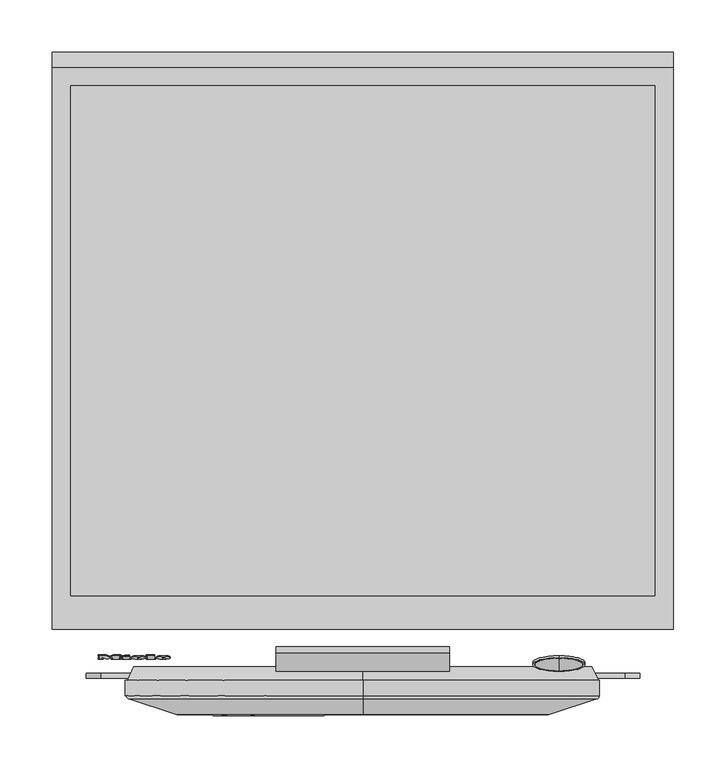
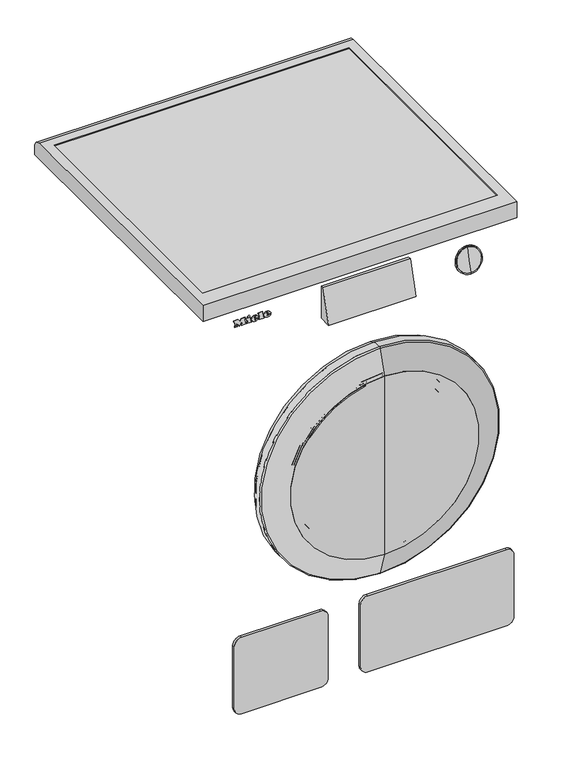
"""IFC4 building model written with IfcOpenShell, lengths in millimetres: proxy geometry, 10999290_NER_WCR870WPS_LW : 11CR8706_NER_10999290_WCR870WPS_LW."""

from ifc_helpers import new_model, si_unit, point, frame, frame_2d, origin, place, context, project, spatial, polyline, circle_curve, ellipse_curve, trimmed, segment, composite_curve, outline, extrude, source, transform, mapped, element, save
from ifc_brep_helpers import plane_surface, cylinder_surface, revolved_surface, extruded_surface, advanced_brep


def specialty_equipment_2ff1fc5d(model_context):
    return source(origin(), model_context, "Body", "SolidModel", [
        extrude(outline(polyline([(0.0, 0.0), (0.0, -1.8582), (-7.9458, -1.8582), (-11.286, 2.4168), (-14.6148, -1.8582), (-21.5574, -1.8582), (-21.5574, 0.0), (-20.1096, 0.0), (-20.1096, 7.6266), (-21.5574, 7.6266), (-21.5574, 9.5418), (-12.4602, 9.5418), (-12.4602, 7.6266), (-13.8624, 7.6266), (-13.8624, 2.6015777), (-8.7438, 9.5418), (-3.648, 2.7988753), (-3.648, 7.6266), (-5.016, 7.6266), (-5.016, 9.5418), (0.0, 9.5418), (0.0, 7.6266), (-1.3794, 7.6266), (-1.3794, 0.0), (0.0, 0.0)])), frame((-254.0, -578.2806922, 817.2814843), z_axis=(0.0, -0.9659258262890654, 0.2588190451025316), x_axis=(-1.0, 0.0, 0.0)), (0.0, 0.0, 1.0), 1.0),
        extrude(outline(polyline([(0.0, 0.0), (-0.0155448, -4.2740444), (-2.0506341, -4.2637237), (-2.0399312, 0.0), (0.0, 0.0)])), frame((-228.464, -577.9348294, 818.5722618), z_axis=(0.0, -0.9659258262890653, 0.2588190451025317), x_axis=(-0.4247202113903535, 0.23431526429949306, 0.8744764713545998)), (0.0, 0.0, 1.0), 1.0),
        extrude(outline(polyline([(-0.7030818, 3.4401063), (-3.9616202, -3.5057256), (-10.0405132, -0.6538993), (-10.6021632, -1.8511006), (-12.336041, -1.0376764), (-8.5158526, 7.1053568), (-6.7819748, 6.2919326), (-7.3581502, 5.0637692), (-3.1266627, 3.0786269), (-2.5504873, 4.3067903), (-0.7030818, 3.4401063)])), frame((-228.464, -577.9348294, 818.5722618), z_axis=(0.0, -0.9659258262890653, 0.2588190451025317), x_axis=(-0.4247202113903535, 0.23431526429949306, 0.8744764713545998)), (0.0, 0.0, 1.0), 1.0),
        extrude(outline(polyline([(0.0, 0.0), (0.0, -1.8582), (-7.8432, -1.8582), (-7.8432, 7.6266), (-9.2454, 7.6266), (-9.2454, 9.5418), (0.0, 9.5418), (0.0, 7.6266), (-1.368, 7.6266), (-1.368, 0.0), (0.0, 0.0)])), frame((-207.7388, -578.2806922, 817.2814843), z_axis=(0.0, -0.9659258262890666, 0.2588190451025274), x_axis=(-1.0, 0.0, 0.0)), (0.0, 0.0, 1.0), 1.0),
        advanced_brep(
        [(-216.0038, -581.029736, 810.8856165), (-216.0038, -580.7317318, 811.9977835), (-208.3772, -580.7317318, 811.9977835), (-221.6468, -580.7317318, 811.9977835), (-218.5118, -581.7290133, 808.2758781), (-208.571, -581.029736, 810.8856165), (-212.0138, -581.029736, 810.8856165), (-214.727, -581.3601962, 809.6523224), (-216.0038, -580.354063, 813.4072624), (-216.0038, -580.0324545, 814.6075219), (-214.0544, -580.0324545, 814.6075219), (-214.0544, -580.354063, 813.4072624), (-216.0038, -580.0638102, 810.6267974), (-214.727, -580.3942704, 809.3935033), (-212.0138, -580.0638102, 810.6267974), (-208.571, -580.0638102, 810.6267974), (-218.5118, -580.7630875, 808.017059), (-221.6468, -579.765806, 811.7389644), (-208.3772, -579.765806, 811.7389644), (-216.0038, -579.765806, 811.7389644), (-216.0038, -579.3881372, 813.1484434), (-214.0544, -579.3881372, 813.1484434), (-214.0544, -579.0665287, 814.3487028), (-216.0038, -579.0665287, 814.3487028)],
        [
            (0, 1),
            (1, 2),
            (2, 3, ellipse_curve(frame((-215.012, -580.7317318, 811.9977835), z_axis=(0.0, -0.9659258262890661, 0.2588190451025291), x_axis=(-1.0, 0.0, 0.0)), 6.6348, 5.4834)),
            (3, 4, circle_curve(frame((-217.2349378, -580.6314135, 812.3721763), z_axis=(0.0, -0.9659258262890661, 0.2588190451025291), x_axis=(0.0, -0.2588190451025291, -0.9659258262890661)), 4.4288556)),
            (4, 5, circle_curve(frame((-215.1448192, -579.8524717, 815.2792267), z_axis=(0.0, -0.9659258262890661, 0.2588190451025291), x_axis=(0.0, -0.2588190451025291, -0.9659258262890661)), 7.9940516)),
            (5, 6),
            (6, 7, circle_curve(frame((-214.1697412, -580.7553361, 811.909691), z_axis=(0.0, 0.9659258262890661, -0.2588190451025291), x_axis=(0.0, -0.2588190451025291, -0.9659258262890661)), 2.4025208)),
            (7, 0, circle_curve(frame((-214.727, -581.029736, 810.8856165), z_axis=(0.0, 0.9659258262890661, -0.2588190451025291), x_axis=(0.0, -0.2588190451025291, -0.9659258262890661)), 1.2768)),
            (8, 9),
            (9, 10, circle_curve(frame((-215.0291, -580.0324545, 814.6075219), z_axis=(0.0, 0.9659258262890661, -0.2588190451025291), x_axis=(0.0, -0.2588190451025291, -0.9659258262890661)), 0.9747)),
            (10, 11),
            (11, 8),
            (12, 13, circle_curve(frame((-214.727, -580.0638102, 810.6267974), z_axis=(0.0, -0.9659258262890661, 0.2588190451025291), x_axis=(0.0, -0.2588190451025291, -0.9659258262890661)), 1.2768)),
            (13, 14, circle_curve(frame((-214.1697412, -579.7894103, 811.650872), z_axis=(0.0, -0.9659258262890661, 0.2588190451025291), x_axis=(0.0, -0.2588190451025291, -0.9659258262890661)), 2.4025208)),
            (14, 15),
            (15, 16, circle_curve(frame((-215.1448192, -578.8865459, 815.0204076), z_axis=(0.0, 0.9659258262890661, -0.2588190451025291), x_axis=(0.0, -0.2588190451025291, -0.9659258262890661)), 7.9940516)),
            (16, 17, circle_curve(frame((-217.2349378, -579.6654877, 812.1133573), z_axis=(0.0, 0.9659258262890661, -0.2588190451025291), x_axis=(0.0, -0.2588190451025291, -0.9659258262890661)), 4.4288556)),
            (17, 18, ellipse_curve(frame((-215.012, -579.765806, 811.7389644), z_axis=(0.0, 0.9659258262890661, -0.2588190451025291), x_axis=(-1.0, 0.0, 0.0)), 6.6348, 5.4834)),
            (18, 19),
            (19, 12),
            (20, 21),
            (21, 22),
            (22, 23, circle_curve(frame((-215.0291, -579.0665287, 814.3487028), z_axis=(0.0, -0.9659258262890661, 0.2588190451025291), x_axis=(0.0, -0.2588190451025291, -0.9659258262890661)), 0.9747)),
            (23, 20),
            (0, 12),
            (19, 1),
            (18, 2),
            (5, 15),
            (14, 6),
            (17, 3),
            (13, 7),
            (16, 4),
            (8, 20),
            (23, 9),
            (22, 10),
            (21, 11),
        ],
        [
            plane_surface(frame((-216.0038, -580.7317318, 811.9977835), z_axis=(0.0, -0.9659258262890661, 0.2588190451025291), x_axis=(0.0, 0.2588190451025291, 0.9659258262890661))),
            plane_surface(frame((-216.0038, -579.765806, 811.7389644), z_axis=(0.0, 0.9659258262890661, -0.2588190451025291), x_axis=(0.0, -0.2588190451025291, -0.9659258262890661))),
            plane_surface(frame((-216.0038, -581.029736, 810.8856165), z_axis=(1.0, 0.0, 0.0), x_axis=(0.0, 0.9659258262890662, -0.25881904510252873))),
            plane_surface(frame((-216.0038, -580.7317318, 811.9977835), z_axis=(0.0, -0.25881904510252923, -0.9659258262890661), x_axis=(0.0, 0.9659258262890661, -0.25881904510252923))),
            plane_surface(frame((-208.571, -581.029736, 810.8856165), z_axis=(0.0, 0.25881904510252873, 0.9659258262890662), x_axis=(0.0, 0.9659258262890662, -0.25881904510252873))),
            extruded_surface(trimmed(ellipse_curve(frame((-215.012, -578.7998801, 811.4801454), z_axis=(0.0, -0.9659258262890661, 0.2588190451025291), x_axis=(-1.0, 0.0, 0.0)), 6.6348, 5.4834), [point((-208.3772, -578.7998801, 811.4801454))], [point((-221.6468, -578.7998801, 811.4801454))], True, "CARTESIAN"), (0.0, -0.965925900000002, 0.2588190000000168), 1.0000000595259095),
            revolved_surface(polyline([(-214.1697412, -580.4112283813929, 809.3302150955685), (-214.1697412, -581.3771542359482, 809.589034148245)]), (-214.1697412, -579.7894103, 811.650872), (0.0, 0.9659258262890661, -0.2588190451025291)),
            revolved_surface(polyline([(-214.727, -580.3942703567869, 809.393503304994), (-214.727, -581.3601962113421, 809.6523223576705)]), (-214.727, -580.0638102, 810.6267974), (0.0, 0.9659258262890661, -0.2588190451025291)),
            cylinder_surface(frame((-217.2349378, -579.6654877, 812.1133573), z_axis=(0.0, -0.9659258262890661, 0.2588190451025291), x_axis=(0.0, -0.2588190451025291, -0.9659258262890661)), 4.4288556),
            cylinder_surface(frame((-215.1448192, -578.8865459, 815.0204076), z_axis=(0.0, -0.9659258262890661, 0.2588190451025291), x_axis=(0.0, -0.2588190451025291, -0.9659258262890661)), 7.9940516),
            plane_surface(frame((-216.0038, -580.354063, 813.4072624), z_axis=(1.0, 0.0, 0.0), x_axis=(0.0, 0.9659258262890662, -0.25881904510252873))),
            revolved_surface(polyline([(-215.0291, -579.3187996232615, 813.407214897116), (-215.0291, -580.2847254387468, 813.6660339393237)]), (-215.0291, -579.0665287, 814.3487028), (0.0, 0.9659258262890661, -0.2588190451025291)),
            plane_surface(frame((-214.0544, -580.0324545, 814.6075219), z_axis=(-1.0, 0.0, 0.0), x_axis=(0.0, 0.9659258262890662, -0.25881904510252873))),
            plane_surface(frame((-214.0544, -580.354063, 813.4072624), z_axis=(0.0, 0.25881904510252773, 0.9659258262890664), x_axis=(0.0, 0.9659258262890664, -0.25881904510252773))),
        ],
        [
            (0, [[1, 2, 3, 4, 5, 6, 7, 8], [9, 10, 11, 12]]),
            (1, [[13, 14, 15, 16, 17, 18, 19, 20], [21, 22, 23, 24]]),
            (2, [[-1, 25, -20, 26]]),
            (3, [[-2, -26, -19, 27]]),
            (4, [[-6, 28, -15, 29]]),
            (5, [[-3, -27, -18, 30]]),
            (6, [[-7, -29, -14, 31]]),
            (7, [[-8, -31, -13, -25]]),
            (8, [[-4, -30, -17, 32]]),
            (9, [[-5, -32, -16, -28]]),
            (10, [[-9, 33, -24, 34]]),
            (11, [[-10, -34, -23, 35]]),
            (12, [[-11, -35, -22, 36]]),
            (13, [[-12, -36, -21, -33]]),
        ],
    ),
        advanced_brep(
        [(-192.212, -581.029736, 810.8856165), (-192.212, -580.7317318, 811.9977835), (-184.5854, -580.7317318, 811.9977835), (-197.855, -580.7317318, 811.9977835), (-194.72, -581.7290133, 808.2758781), (-184.7792, -581.029736, 810.8856165), (-188.222, -581.029736, 810.8856165), (-190.9352, -581.3601962, 809.6523224), (-192.212, -580.354063, 813.4072624), (-192.212, -580.0324545, 814.6075219), (-190.2626, -580.0324545, 814.6075219), (-190.2626, -580.354063, 813.4072624), (-192.212, -580.0638102, 810.6267974), (-190.9352, -580.3942704, 809.3935033), (-188.222, -580.0638102, 810.6267974), (-184.7792, -580.0638102, 810.6267974), (-194.72, -580.7630875, 808.017059), (-197.855, -579.765806, 811.7389644), (-184.5854, -579.765806, 811.7389644), (-192.212, -579.765806, 811.7389644), (-192.212, -579.3881372, 813.1484434), (-190.2626, -579.3881372, 813.1484434), (-190.2626, -579.0665287, 814.3487028), (-192.212, -579.0665287, 814.3487028)],
        [
            (0, 1),
            (1, 2),
            (2, 3, ellipse_curve(frame((-191.2202, -580.7317318, 811.9977835), z_axis=(0.0, -0.965925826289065, 0.25881904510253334), x_axis=(-1.0, 0.0, 0.0)), 6.6348, 5.4834)),
            (3, 4, circle_curve(frame((-193.4431378, -580.6314135, 812.3721763), z_axis=(0.0, -0.9659258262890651, 0.25881904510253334), x_axis=(0.0, -0.2588190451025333, -0.9659258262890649)), 4.4288556)),
            (4, 5, circle_curve(frame((-191.3530192, -579.8524717, 815.2792267), z_axis=(0.0, -0.9659258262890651, 0.25881904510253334), x_axis=(0.0, -0.2588190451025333, -0.9659258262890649)), 7.9940516)),
            (5, 6),
            (6, 7, circle_curve(frame((-190.3779412, -580.7553361, 811.909691), z_axis=(0.0, 0.9659258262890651, -0.25881904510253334), x_axis=(0.0, -0.2588190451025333, -0.9659258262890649)), 2.4025208)),
            (7, 0, circle_curve(frame((-190.9352, -581.029736, 810.8856165), z_axis=(0.0, 0.9659258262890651, -0.25881904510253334), x_axis=(0.0, -0.2588190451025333, -0.9659258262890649)), 1.2768)),
            (8, 9),
            (9, 10, circle_curve(frame((-191.2373, -580.0324545, 814.6075219), z_axis=(0.0, 0.9659258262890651, -0.25881904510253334), x_axis=(0.0, -0.2588190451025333, -0.9659258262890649)), 0.9747)),
            (10, 11),
            (11, 8),
            (12, 13, circle_curve(frame((-190.9352, -580.0638102, 810.6267974), z_axis=(0.0, -0.9659258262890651, 0.25881904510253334), x_axis=(0.0, -0.2588190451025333, -0.9659258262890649)), 1.2768)),
            (13, 14, circle_curve(frame((-190.3779412, -579.7894103, 811.650872), z_axis=(0.0, -0.9659258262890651, 0.25881904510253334), x_axis=(0.0, -0.2588190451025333, -0.9659258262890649)), 2.4025208)),
            (14, 15),
            (15, 16, circle_curve(frame((-191.3530192, -578.8865459, 815.0204076), z_axis=(0.0, 0.9659258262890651, -0.25881904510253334), x_axis=(0.0, -0.2588190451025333, -0.9659258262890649)), 7.9940516)),
            (16, 17, circle_curve(frame((-193.4431378, -579.6654877, 812.1133573), z_axis=(0.0, 0.9659258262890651, -0.25881904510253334), x_axis=(0.0, -0.2588190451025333, -0.9659258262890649)), 4.4288556)),
            (17, 18, ellipse_curve(frame((-191.2202, -579.765806, 811.7389644), z_axis=(0.0, 0.965925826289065, -0.25881904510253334), x_axis=(-1.0, 0.0, 0.0)), 6.6348, 5.4834)),
            (18, 19),
            (19, 12),
            (20, 21),
            (21, 22),
            (22, 23, circle_curve(frame((-191.2373, -579.0665287, 814.3487028), z_axis=(0.0, -0.9659258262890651, 0.25881904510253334), x_axis=(0.0, -0.2588190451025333, -0.9659258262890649)), 0.9747)),
            (23, 20),
            (0, 12),
            (19, 1),
            (18, 2),
            (5, 15),
            (14, 6),
            (17, 3),
            (13, 7),
            (16, 4),
            (8, 20),
            (23, 9),
            (22, 10),
            (21, 11),
        ],
        [
            plane_surface(frame((-192.212, -580.7317318, 811.9977835), z_axis=(0.0, -0.965925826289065, 0.25881904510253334), x_axis=(0.0, 0.25881904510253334, 0.965925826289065))),
            plane_surface(frame((-192.212, -579.765806, 811.7389644), z_axis=(0.0, 0.965925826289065, -0.25881904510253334), x_axis=(0.0, -0.25881904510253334, -0.965925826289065))),
            plane_surface(frame((-192.212, -581.029736, 810.8856165), z_axis=(1.0, 0.0, 0.0), x_axis=(0.0, 0.9659258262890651, -0.2588190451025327))),
            plane_surface(frame((-192.212, -580.7317318, 811.9977835), z_axis=(0.0, -0.25881904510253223, -0.9659258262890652), x_axis=(0.0, 0.9659258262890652, -0.25881904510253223))),
            plane_surface(frame((-184.7792, -581.029736, 810.8856165), z_axis=(0.0, 0.2588190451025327, 0.9659258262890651), x_axis=(0.0, 0.9659258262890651, -0.2588190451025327))),
            extruded_surface(trimmed(ellipse_curve(frame((-191.2202, -578.7998801, 811.4801454), z_axis=(0.0, -0.965925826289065, 0.25881904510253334), x_axis=(-1.0, 0.0, 0.0)), 6.6348, 5.4834), [point((-184.5854, -578.7998801, 811.4801454))], [point((-197.855, -578.7998801, 811.4801454))], True, "CARTESIAN"), (0.0, -0.965925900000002, 0.2588190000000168), 1.0000000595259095),
            revolved_surface(polyline([(-190.3779412, -580.4112283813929, 809.3302150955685), (-190.3779412, -581.3771542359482, 809.589034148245)]), (-190.3779412, -579.7894103, 811.650872), (0.0, 0.9659258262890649, -0.2588190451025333)),
            revolved_surface(polyline([(-190.9352, -580.3942703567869, 809.393503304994), (-190.9352, -581.3601962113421, 809.6523223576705)]), (-190.9352, -580.0638102, 810.6267974), (0.0, 0.9659258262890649, -0.2588190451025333)),
            cylinder_surface(frame((-193.4431378, -579.6654877, 812.1133573), z_axis=(0.0, -0.9659258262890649, 0.2588190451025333), x_axis=(0.0, -0.2588190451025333, -0.9659258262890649)), 4.4288556),
            cylinder_surface(frame((-191.3530192, -578.8865459, 815.0204076), z_axis=(0.0, -0.9659258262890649, 0.2588190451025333), x_axis=(0.0, -0.2588190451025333, -0.9659258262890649)), 7.9940516),
            plane_surface(frame((-192.212, -580.354063, 813.4072624), z_axis=(1.0, 0.0, 0.0), x_axis=(0.0, 0.9659258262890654, -0.25881904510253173))),
            revolved_surface(polyline([(-191.2373, -579.3187996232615, 813.407214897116), (-191.2373, -580.2847254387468, 813.6660339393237)]), (-191.2373, -579.0665287, 814.3487028), (0.0, 0.9659258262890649, -0.2588190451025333)),
            plane_surface(frame((-190.2626, -580.0324545, 814.6075219), z_axis=(-1.0, 0.0, 0.0), x_axis=(0.0, 0.9659258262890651, -0.2588190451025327))),
            plane_surface(frame((-190.2626, -580.354063, 813.4072624), z_axis=(0.0, 0.2588190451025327, 0.9659258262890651), x_axis=(0.0, 0.9659258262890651, -0.2588190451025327))),
        ],
        [
            (0, [[1, 2, 3, 4, 5, 6, 7, 8], [9, 10, 11, 12]]),
            (1, [[13, 14, 15, 16, 17, 18, 19, 20], [21, 22, 23, 24]]),
            (2, [[-1, 25, -20, 26]]),
            (3, [[-2, -26, -19, 27]]),
            (4, [[-6, 28, -15, 29]]),
            (5, [[-3, -27, -18, 30]]),
            (6, [[-7, -29, -14, 31]]),
            (7, [[-8, -31, -13, -25]]),
            (8, [[-4, -30, -17, 32]]),
            (9, [[-5, -32, -16, -28]]),
            (10, [[-9, 33, -24, 34]]),
            (11, [[-10, -34, -23, 35]]),
            (12, [[-11, -35, -22, 36]]),
            (13, [[-12, -36, -21, -33]]),
        ],
    ),
        extrude(outline(composite_curve([segment(trimmed(circle_curve(frame_2d((475.0, 0.0)), 179.0077488), [point((650.0572384, -37.3996979))], [point((581.8669772, -143.6078804))], False, "CARTESIAN"), True, "CONTINUOUS"), segment(polyline([(581.8669772, -143.6078804), (580.6729844, -142.0033925)]), True, "CONTINUOUS"), segment(trimmed(circle_curve(frame_2d((475.0, 0.0)), 177.0077488), [point((580.6729844, -142.0033925))], [point((648.1013763, -36.9818423))], True, "CARTESIAN"), True, "CONTINUOUS"), segment(polyline([(648.1013763, -36.9818423), (650.0572384, -37.3996979)]), True, "CONTINUOUS")], self_intersect=False)), frame((0.0, -636.0, 0.0), z_axis=(0.0, 1.0, 0.0), x_axis=(0.0, 0.0, 1.0)), (0.0, 0.0, 1.0), 1.0),
        advanced_brep(
        [(0.0, -610.8709778, 313.0), (0.0, -610.8709778, 637.0), (0.0, -592.0, 637.0), (0.0, -592.0, 313.0), (0.0, -628.93239, 652.7005461), (0.0, -628.93239, 297.2994539), (0.0, -630.9005671, 650.4364173), (0.0, -630.9005671, 299.5635827), (0.0, -592.0, 326.0), (0.0, -592.0, 624.0), (0.0, -589.0, 326.0), (0.0, -589.0, 624.0), (0.0, -589.0, 475.0), (0.0, -635.0, 296.0), (0.0, -635.0, 654.0), (0.0, -635.0, 475.0)],
        [
            (0, 1, circle_curve(frame((0.0, -610.8709778, 475.0), z_axis=(0.0, 1.0, 0.0), x_axis=(0.0, 0.0, 1.0)), 162.0)),
            (1, 2),
            (2, 3, circle_curve(frame((0.0, -592.0, 475.0), z_axis=(0.0, -1.0, 0.0), x_axis=(0.0, 0.0, 1.0)), 162.0)),
            (3, 0),
            (4, 5, circle_curve(frame((0.0, -628.93239, 475.0), z_axis=(0.0, 1.0, 0.0), x_axis=(0.0, 0.0, 1.0)), 177.7005461)),
            (5, 0),
            (0, 1, circle_curve(frame((0.0, -610.8709778, 475.0), z_axis=(0.0, -1.0, 0.0), x_axis=(0.0, 0.0, 1.0)), 162.0)),
            (1, 4),
            (6, 7, circle_curve(frame((0.0, -630.9005671, 475.0), z_axis=(0.0, 1.0, 0.0), x_axis=(0.0, 0.0, 1.0)), 175.4364173)),
            (7, 5),
            (4, 6),
            (2, 3, circle_curve(frame((0.0, -592.0, 475.0), z_axis=(0.0, 1.0, 0.0), x_axis=(0.0, 0.0, 1.0)), 162.0)),
            (3, 8),
            (8, 9, circle_curve(frame((0.0, -592.0, 475.0), z_axis=(0.0, -1.0, 0.0), x_axis=(0.0, 0.0, 1.0)), 149.0)),
            (9, 2),
            (10, 11, circle_curve(frame((0.0, -589.0, 475.0), z_axis=(0.0, 1.0, 0.0), x_axis=(0.0, 0.0, 1.0)), 149.0)),
            (11, 12),
            (12, 10),
            (8, 9, circle_curve(frame((0.0, -592.0, 475.0), z_axis=(0.0, 1.0, 0.0), x_axis=(0.0, 0.0, 1.0)), 149.0)),
            (9, 11),
            (10, 8),
            (13, 14, circle_curve(frame((0.0, -635.0, 475.0), z_axis=(0.0, 1.0, 0.0), x_axis=(0.0, 0.0, 1.0)), 179.0)),
            (14, 6),
            (6, 7, circle_curve(frame((0.0, -630.9005671, 475.0), z_axis=(0.0, -1.0, 0.0), x_axis=(0.0, 0.0, 1.0)), 175.4364173)),
            (7, 13),
            (14, 13, circle_curve(frame((0.0, -635.0, 475.0), z_axis=(0.0, 1.0, 0.0), x_axis=(0.0, 0.0, 1.0)), 179.0)),
            (15, 14),
            (13, 15),
            (11, 10, circle_curve(frame((0.0, -589.0, 475.0), z_axis=(0.0, 1.0, 0.0), x_axis=(0.0, 0.0, 1.0)), 149.0)),
            (5, 4, circle_curve(frame((0.0, -628.93239, 475.0), z_axis=(0.0, 1.0, 0.0), x_axis=(0.0, 0.0, 1.0)), 177.7005461)),
        ],
        [
            cylinder_surface(frame((0.0, -2342.7556811, 475.0), z_axis=(0.0, -1.0, 0.0), x_axis=(0.0, 0.0, 1.0)), 162.0),
            revolved_surface(polyline([(0.0, -610.8709778, 637.0), (0.0, -628.93239, 652.7005461)]), (0.0, -2342.7556811, 475.0), (0.0, -1.0, 0.0)),
            revolved_surface(polyline([(0.0, -628.93239, 652.7005461), (0.0, -630.9005671, 650.4364173)]), (0.0, -2342.7556811, 475.0), (0.0, -1.0, 0.0)),
            plane_surface(frame((0.0, -592.0, 475.0), z_axis=(0.0, 1.0, 0.0), x_axis=(0.0, 0.0, 1.0))),
            plane_surface(frame((0.0, -589.0, 475.0), z_axis=(0.0, 1.0, 0.0), x_axis=(0.0, 0.0, 1.0))),
            cylinder_surface(frame((0.0, -2342.7556811, 475.0), z_axis=(0.0, -1.0, 0.0), x_axis=(0.0, 0.0, 1.0)), 149.0),
            revolved_surface(polyline([(0.0, -630.9005671, 650.4364173), (0.0, -635.0, 654.0)]), (0.0, -2342.7556811, 475.0), (0.0, -1.0, 0.0)),
            plane_surface(frame((0.0, -635.0, 475.0), z_axis=(0.0, -1.0, 0.0), x_axis=(0.0, 0.0, 1.0))),
        ],
        [
            (0, [[1, 2, 3, 4]]),
            (1, [[5, 6, 7, 8]]),
            (2, [[9, 10, -5, 11]]),
            (3, [[12, 13, 14, 15]]),
            (4, [[16, 17, 18]]),
            (5, [[19, 20, -16, 21]]),
            (6, [[22, 23, 24, 25]]),
            (6, [[26, -25, -9, -23]]),
            (7, [[27, -22, 28]]),
            (7, [[-28, -26, -27]]),
            (4, [[29, -18, -17]]),
            (5, [[-14, -21, -29, -20]]),
            (3, [[-3, -15, -19, -13]]),
            (0, [[-7, -4, -12, -2]]),
            (1, [[30, -8, -1, -6]]),
            (2, [[-24, -11, -30, -10]]),
        ],
    ),
        advanced_brep(
        [(0.0, -602.0, 313.0), (0.0, -602.0, 637.0), (0.0, -602.0, 702.0), (0.0, -602.0, 248.0), (0.0, -592.0, 326.0), (0.0, -592.0, 624.0), (0.0, -592.0, 637.0), (0.0, -592.0, 313.0), (0.0, -589.0, 326.0), (0.0, -589.0, 624.0), (0.0, -589.0, 254.0), (0.0, -589.0, 696.0)],
        [
            (0, 1, circle_curve(frame((0.0, -602.0, 475.0), z_axis=(0.0, 1.0, 0.0), x_axis=(0.0, 0.0, 1.0)), 162.0)),
            (1, 2),
            (2, 3, circle_curve(frame((0.0, -602.0, 475.0), z_axis=(0.0, -1.0, 0.0), x_axis=(0.0, 0.0, 1.0)), 227.0)),
            (3, 0),
            (4, 5, circle_curve(frame((0.0, -592.0, 475.0), z_axis=(0.0, 1.0, 0.0), x_axis=(0.0, 0.0, 1.0)), 149.0)),
            (5, 6),
            (6, 7, circle_curve(frame((0.0, -592.0, 475.0), z_axis=(0.0, -1.0, 0.0), x_axis=(0.0, 0.0, 1.0)), 162.0)),
            (7, 4),
            (5, 4, circle_curve(frame((0.0, -592.0, 475.0), z_axis=(0.0, 1.0, 0.0), x_axis=(0.0, 0.0, 1.0)), 149.0)),
            (7, 6, circle_curve(frame((0.0, -592.0, 475.0), z_axis=(0.0, -1.0, 0.0), x_axis=(0.0, 0.0, 1.0)), 162.0)),
            (8, 9, circle_curve(frame((0.0, -589.0, 475.0), z_axis=(0.0, 1.0, 0.0), x_axis=(0.0, 0.0, 1.0)), 149.0)),
            (9, 5),
            (4, 8),
            (2, 3, circle_curve(frame((0.0, -602.0, 475.0), z_axis=(0.0, 1.0, 0.0), x_axis=(0.0, 0.0, 1.0)), 227.0)),
            (3, 10),
            (10, 11, circle_curve(frame((0.0, -589.0, 475.0), z_axis=(0.0, -1.0, 0.0), x_axis=(0.0, 0.0, 1.0)), 221.0)),
            (11, 2),
            (10, 11, circle_curve(frame((0.0, -589.0, 475.0), z_axis=(0.0, 1.0, 0.0), x_axis=(0.0, 0.0, 1.0)), 221.0)),
            (11, 9),
            (8, 10),
            (8, 9, circle_curve(frame((0.0, -589.0, 475.0), z_axis=(0.0, -1.0, 0.0), x_axis=(0.0, 0.0, 1.0)), 149.0)),
            (1, 0, circle_curve(frame((0.0, -602.0, 475.0), z_axis=(0.0, 1.0, 0.0), x_axis=(0.0, 0.0, 1.0)), 162.0)),
            (6, 1),
            (0, 7),
        ],
        [
            plane_surface(frame((0.0, -602.0, 475.0), z_axis=(0.0, -1.0, 0.0), x_axis=(0.0, 0.0, 1.0))),
            plane_surface(frame((0.0, -592.0, 475.0), z_axis=(0.0, -1.0, 0.0), x_axis=(0.0, 0.0, 1.0))),
            revolved_surface(polyline([(0.0, -592.0, 624.0), (0.0, -589.0, 624.0)]), (0.0, -2342.7556811, 475.0), (0.0, -1.0, 0.0)),
            revolved_surface(polyline([(0.0, -589.0, 696.0), (0.0, -602.0, 702.0)]), (0.0, -2342.7556811, 475.0), (0.0, -1.0, 0.0)),
            plane_surface(frame((0.0, -589.0, 475.0), z_axis=(0.0, 1.0, 0.0), x_axis=(0.0, 0.0, 1.0))),
            revolved_surface(polyline([(0.0, -602.0, 637.0), (0.0, -592.0, 637.0)]), (0.0, -2342.7556811, 475.0), (0.0, -1.0, 0.0)),
        ],
        [
            (0, [[1, 2, 3, 4]]),
            (1, [[5, 6, 7, 8]]),
            (1, [[9, -8, 10, -6]]),
            (2, [[11, 12, -5, 13]]),
            (3, [[14, 15, 16, 17]]),
            (4, [[18, 19, -11, 20]]),
            (4, [[-16, -20, 21, -19]]),
            (3, [[-3, -17, -18, -15]]),
            (0, [[22, -4, -14, -2]]),
            (5, [[-7, 23, -1, 24]]),
            (5, [[-10, -24, -22, -23]]),
            (2, [[-21, -13, -9, -12]]),
        ],
    ),
        advanced_brep(
        [(0.0, -602.0, 313.0), (0.0, -602.0, 637.0), (0.0, -610.8709778, 637.0), (0.0, -610.8709778, 313.0), (0.0, -602.0, 310.0), (0.0, -602.0, 640.0), (0.0, -609.7493238, 310.0), (0.0, -609.7493238, 640.0), (0.0, -628.93239, 297.2994539), (0.0, -628.93239, 652.7005461), (0.0, -626.9642129, 654.9646748), (0.0, -626.9642129, 295.0353252)],
        [
            (0, 1, circle_curve(frame((0.0, -602.0, 475.0), z_axis=(0.0, 1.0, 0.0), x_axis=(0.0, 0.0, 1.0)), 162.0)),
            (1, 2),
            (2, 3, circle_curve(frame((0.0, -610.8709778, 475.0), z_axis=(0.0, -1.0, 0.0), x_axis=(0.0, 0.0, 1.0)), 162.0)),
            (3, 0),
            (4, 5, circle_curve(frame((0.0, -602.0, 475.0), z_axis=(0.0, 1.0, 0.0), x_axis=(0.0, 0.0, 1.0)), 165.0)),
            (5, 1),
            (0, 4),
            (6, 7, circle_curve(frame((0.0, -609.7493238, 475.0), z_axis=(0.0, 1.0, 0.0), x_axis=(0.0, 0.0, 1.0)), 165.0)),
            (7, 5),
            (4, 6),
            (2, 3, circle_curve(frame((0.0, -610.8709778, 475.0), z_axis=(0.0, 1.0, 0.0), x_axis=(0.0, 0.0, 1.0)), 162.0)),
            (3, 8),
            (8, 9, circle_curve(frame((0.0, -628.93239, 475.0), z_axis=(0.0, -1.0, 0.0), x_axis=(0.0, 0.0, 1.0)), 177.7005461)),
            (9, 2),
            (8, 9, circle_curve(frame((0.0, -628.93239, 475.0), z_axis=(0.0, 1.0, 0.0), x_axis=(0.0, 0.0, 1.0)), 177.7005461)),
            (9, 10),
            (10, 11, circle_curve(frame((0.0, -626.9642129, 475.0), z_axis=(0.0, -1.0, 0.0), x_axis=(0.0, 0.0, 1.0)), 179.9646748)),
            (11, 8),
            (11, 10, circle_curve(frame((0.0, -626.9642129, 475.0), z_axis=(0.0, -1.0, 0.0), x_axis=(0.0, 0.0, 1.0)), 179.9646748)),
            (1, 0, circle_curve(frame((0.0, -602.0, 475.0), z_axis=(0.0, 1.0, 0.0), x_axis=(0.0, 0.0, 1.0)), 162.0)),
            (10, 7),
            (6, 11),
            (6, 7, circle_curve(frame((0.0, -609.7493238, 475.0), z_axis=(0.0, -1.0, 0.0), x_axis=(0.0, 0.0, 1.0)), 165.0)),
            (5, 4, circle_curve(frame((0.0, -602.0, 475.0), z_axis=(0.0, 1.0, 0.0), x_axis=(0.0, 0.0, 1.0)), 165.0)),
        ],
        [
            revolved_surface(polyline([(0.0, -610.8709778, 637.0), (0.0, -602.0, 637.0)]), (0.0, -2342.7556811, 475.0), (0.0, -1.0, 0.0)),
            plane_surface(frame((0.0, -602.0, 475.0), z_axis=(0.0, 1.0, 0.0), x_axis=(0.0, 0.0, 1.0))),
            cylinder_surface(frame((0.0, -2342.7556811, 475.0), z_axis=(0.0, -1.0, 0.0), x_axis=(0.0, 0.0, 1.0)), 165.0),
            revolved_surface(polyline([(0.0, -628.93239, 652.7005461), (0.0, -610.8709778, 637.0)]), (0.0, -2342.7556811, 475.0), (0.0, -1.0, 0.0)),
            revolved_surface(polyline([(0.0, -626.9642129, 654.9646748), (0.0, -628.93239, 652.7005461)]), (0.0, -2342.7556811, 475.0), (0.0, -1.0, 0.0)),
            revolved_surface(polyline([(0.0, -609.7493238, 640.0), (0.0, -626.9642129, 654.9646748)]), (0.0, -2342.7556811, 475.0), (0.0, -1.0, 0.0)),
        ],
        [
            (0, [[1, 2, 3, 4]]),
            (1, [[5, 6, -1, 7]]),
            (2, [[8, 9, -5, 10]]),
            (3, [[11, 12, 13, 14]]),
            (4, [[15, 16, 17, 18]]),
            (4, [[-13, -18, 19, -16]]),
            (3, [[-3, -14, -15, -12]]),
            (0, [[20, -4, -11, -2]]),
            (5, [[-17, 21, -8, 22]]),
            (5, [[-19, -22, 23, -21]]),
            (1, [[24, -7, -20, -6]]),
            (2, [[-23, -10, -24, -9]]),
        ],
    ),
        advanced_brep(
        [(0.0, -626.9642129, 295.0353252), (0.0, -626.9642129, 654.9646748), (0.0, -630.9005671, 650.4364173), (0.0, -630.9005671, 299.5635827), (0.0, -602.0, 247.0), (0.0, -602.0, 703.0), (0.0, -602.0, 640.0), (0.0, -602.0, 310.0), (0.0, -609.7493238, 640.0), (0.0, -609.7493238, 310.0), (0.0, -635.0, 296.0), (0.0, -635.0, 654.0), (0.0, -616.8993073, 247.0), (0.0, -616.8993073, 703.0), (0.0, -619.7524768, 249.072949), (0.0, -619.7524768, 700.927051)],
        [
            (0, 1, circle_curve(frame((0.0, -626.9642129, 475.0), z_axis=(0.0, 1.0, 0.0), x_axis=(0.0, 0.0, 1.0)), 179.9646748)),
            (1, 2),
            (2, 3, circle_curve(frame((0.0, -630.9005671, 475.0), z_axis=(0.0, -1.0, 0.0), x_axis=(0.0, 0.0, 1.0)), 175.4364173)),
            (3, 0),
            (4, 5, circle_curve(frame((0.0, -602.0, 475.0), z_axis=(0.0, 1.0, 0.0), x_axis=(0.0, 0.0, 1.0)), 228.0)),
            (5, 6),
            (6, 7, circle_curve(frame((0.0, -602.0, 475.0), z_axis=(0.0, -1.0, 0.0), x_axis=(0.0, 0.0, 1.0)), 165.0)),
            (7, 4),
            (6, 8),
            (8, 9, circle_curve(frame((0.0, -609.7493238, 475.0), z_axis=(0.0, -1.0, 0.0), x_axis=(0.0, 0.0, 1.0)), 165.0)),
            (9, 7),
            (2, 3, circle_curve(frame((0.0, -630.9005671, 475.0), z_axis=(0.0, 1.0, 0.0), x_axis=(0.0, 0.0, 1.0)), 175.4364173)),
            (3, 10),
            (10, 11, circle_curve(frame((0.0, -635.0, 475.0), z_axis=(0.0, -1.0, 0.0), x_axis=(0.0, 0.0, 1.0)), 179.0)),
            (11, 2),
            (12, 13, circle_curve(frame((0.0, -616.8993073, 475.0), z_axis=(0.0, 1.0, 0.0), x_axis=(0.0, 0.0, 1.0)), 228.0)),
            (13, 5),
            (4, 12),
            (13, 12, circle_curve(frame((0.0, -616.8993073, 475.0), z_axis=(0.0, 1.0, 0.0), x_axis=(0.0, 0.0, 1.0)), 228.0)),
            (4, 5, circle_curve(frame((0.0, -602.0, 475.0), z_axis=(0.0, -1.0, 0.0), x_axis=(0.0, 0.0, 1.0)), 228.0)),
            (14, 15, circle_curve(frame((0.0, -619.7524768, 475.0), z_axis=(0.0, 1.0, 0.0), x_axis=(0.0, 0.0, 1.0)), 225.927051)),
            (15, 13, circle_curve(frame((0.0, -616.8993073, 700.0), z_axis=(-1.0, 0.0, 0.0), x_axis=(0.0, 1.0, 0.0)), 3.0)),
            (12, 14, circle_curve(frame((0.0, -616.8993073, 250.0), z_axis=(-1.0, 0.0, 0.0), x_axis=(0.0, 1.0, 0.0)), 3.0)),
            (15, 14, circle_curve(frame((0.0, -619.7524768, 475.0), z_axis=(0.0, 1.0, 0.0), x_axis=(0.0, 0.0, 1.0)), 225.927051)),
            (10, 11, circle_curve(frame((0.0, -635.0, 475.0), z_axis=(0.0, 1.0, 0.0), x_axis=(0.0, 0.0, 1.0)), 179.0)),
            (11, 15),
            (14, 10),
            (1, 0, circle_curve(frame((0.0, -626.9642129, 475.0), z_axis=(0.0, 1.0, 0.0), x_axis=(0.0, 0.0, 1.0)), 179.9646748)),
            (8, 1),
            (0, 9),
            (8, 9, circle_curve(frame((0.0, -609.7493238, 475.0), z_axis=(0.0, 1.0, 0.0), x_axis=(0.0, 0.0, 1.0)), 165.0)),
            (7, 6, circle_curve(frame((0.0, -602.0, 475.0), z_axis=(0.0, -1.0, 0.0), x_axis=(0.0, 0.0, 1.0)), 165.0)),
        ],
        [
            revolved_surface(polyline([(0.0, -630.9005671, 650.4364173), (0.0, -626.9642129, 654.9646748)]), (0.0, -2342.7556811, 475.0), (0.0, -1.0, 0.0)),
            plane_surface(frame((0.0, -602.0, 475.0), z_axis=(0.0, 1.0, 0.0), x_axis=(0.0, 0.0, 1.0))),
            revolved_surface(polyline([(0.0, -609.7493238, 640.0), (0.0, -602.0, 640.0)]), (0.0, -2342.7556811, 475.0), (0.0, -1.0, 0.0)),
            revolved_surface(polyline([(0.0, -635.0, 654.0), (0.0, -630.9005671, 650.4364173)]), (0.0, -2342.7556811, 475.0), (0.0, -1.0, 0.0)),
            cylinder_surface(frame((0.0, -2342.7556811, 475.0), z_axis=(0.0, -1.0, 0.0), x_axis=(0.0, 0.0, 1.0)), 228.0),
            revolved_surface(trimmed(ellipse_curve(frame((0.0, -616.8993073, 700.0), z_axis=(1.0, 0.0, 0.0), x_axis=(0.0, 1.0, 0.0)), 3.0, 3.0), [point((0.0, -616.8993073, 703.0))], [point((0.0, -619.7524768, 700.927051))], True, "CARTESIAN"), (0.0, -2342.7556811, 475.0), (0.0, -1.0, 0.0)),
            revolved_surface(polyline([(0.0, -619.7524768, 700.927051), (0.0, -635.0, 654.0)]), (0.0, -2342.7556811, 475.0), (0.0, -1.0, 0.0)),
            revolved_surface(polyline([(0.0, -626.9642129, 654.9646748), (0.0, -609.7493238, 640.0)]), (0.0, -2342.7556811, 475.0), (0.0, -1.0, 0.0)),
        ],
        [
            (0, [[1, 2, 3, 4]]),
            (1, [[5, 6, 7, 8]]),
            (2, [[-7, 9, 10, 11]]),
            (3, [[12, 13, 14, 15]]),
            (4, [[16, 17, -5, 18]]),
            (4, [[19, -18, 20, -17]]),
            (5, [[21, 22, -16, 23]]),
            (5, [[24, -23, -19, -22]]),
            (6, [[25, 26, -21, 27]]),
            (6, [[-14, -27, -24, -26]]),
            (3, [[-3, -15, -25, -13]]),
            (0, [[28, -4, -12, -2]]),
            (7, [[-10, 29, -1, 30]]),
            (7, [[31, -30, -28, -29]]),
            (1, [[-20, -8, 32, -6]]),
            (2, [[-32, -11, -31, -9]]),
        ],
    ),
        advanced_brep(
        [(188.0, -590.952838, 769.783706), (188.0, -579.047162, 814.216294), (188.0, -585.0, 792.0), (188.0, -592.8846897, 770.3013441), (188.0, -580.9790136, 814.7339321), (188.0, -586.9318517, 792.5176381)],
        [
            (0, 1, circle_curve(frame((188.0, -585.0, 792.0), z_axis=(0.0, 0.9659258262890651, -0.25881904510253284), x_axis=(0.0, 0.2588190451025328, 0.9659258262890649)), 23.0)),
            (1, 2),
            (2, 0),
            (1, 0, circle_curve(frame((188.0, -585.0, 792.0), z_axis=(0.0, 0.9659258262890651, -0.25881904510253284), x_axis=(0.0, 0.2588190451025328, 0.9659258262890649)), 23.0)),
            (3, 4, circle_curve(frame((188.0, -586.9318517, 792.5176381), z_axis=(0.0, 0.9659258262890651, -0.25881904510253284), x_axis=(0.0, 0.2588190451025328, 0.9659258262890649)), 23.0)),
            (4, 1),
            (0, 3),
            (4, 3, circle_curve(frame((188.0, -586.9318517, 792.5176381), z_axis=(0.0, 0.9659258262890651, -0.25881904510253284), x_axis=(0.0, 0.2588190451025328, 0.9659258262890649)), 23.0)),
            (5, 4),
            (3, 5),
        ],
        [
            plane_surface(frame((188.0, -585.0, 792.0), z_axis=(0.0, 0.9659258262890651, -0.25881904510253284), x_axis=(0.0, 0.25881904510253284, 0.9659258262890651))),
            cylinder_surface(frame((188.0, -585.0, 792.0), z_axis=(0.0, -0.9659258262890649, 0.2588190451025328), x_axis=(0.0, 0.2588190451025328, 0.9659258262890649)), 23.0),
            plane_surface(frame((188.0, -586.9318517, 792.5176381), z_axis=(0.0, -0.9659258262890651, 0.25881904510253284), x_axis=(0.0, 0.25881904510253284, 0.9659258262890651))),
        ],
        [
            (0, [[1, 2, 3]]),
            (0, [[4, -3, -2]]),
            (1, [[5, 6, -1, 7]]),
            (1, [[8, -7, -4, -6]]),
            (2, [[9, -5, 10]]),
            (2, [[-10, -8, -9]]),
        ],
    ),
        advanced_brep(
        [(188.0, -593.4023278, 768.3694924), (188.0, -580.4613755, 816.6657837), (188.0, -578.5295239, 816.1481457), (188.0, -591.4704761, 767.8518543), (188.0, -592.8846897, 770.3013441), (188.0, -580.9790136, 814.7339321), (188.0, -579.047162, 814.216294), (188.0, -590.952838, 769.783706)],
        [
            (0, 1, circle_curve(frame((188.0, -586.9318517, 792.5176381), z_axis=(0.0, 0.9659258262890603, -0.2588190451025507), x_axis=(0.0, 0.2588190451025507, 0.9659258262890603)), 25.0)),
            (1, 2),
            (2, 3, circle_curve(frame((188.0, -585.0, 792.0), z_axis=(0.0, -0.9659258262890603, 0.2588190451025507), x_axis=(0.0, 0.2588190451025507, 0.9659258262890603)), 25.0)),
            (3, 0),
            (1, 0, circle_curve(frame((188.0, -586.9318517, 792.5176381), z_axis=(0.0, 0.9659258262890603, -0.2588190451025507), x_axis=(0.0, 0.2588190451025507, 0.9659258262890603)), 25.0)),
            (3, 2, circle_curve(frame((188.0, -585.0, 792.0), z_axis=(0.0, -0.9659258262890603, 0.2588190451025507), x_axis=(0.0, 0.2588190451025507, 0.9659258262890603)), 25.0)),
            (4, 5, circle_curve(frame((188.0, -586.9318517, 792.5176381), z_axis=(0.0, 0.9659258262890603, -0.2588190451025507), x_axis=(0.0, 0.2588190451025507, 0.9659258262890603)), 23.0)),
            (5, 1),
            (0, 4),
            (5, 4, circle_curve(frame((188.0, -586.9318517, 792.5176381), z_axis=(0.0, 0.9659258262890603, -0.2588190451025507), x_axis=(0.0, 0.2588190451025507, 0.9659258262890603)), 23.0)),
            (2, 6),
            (6, 7, circle_curve(frame((188.0, -585.0, 792.0), z_axis=(0.0, -0.9659258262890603, 0.2588190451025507), x_axis=(0.0, 0.2588190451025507, 0.9659258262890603)), 23.0)),
            (7, 3),
            (7, 6, circle_curve(frame((188.0, -585.0, 792.0), z_axis=(0.0, -0.9659258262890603, 0.2588190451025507), x_axis=(0.0, 0.2588190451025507, 0.9659258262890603)), 23.0)),
            (6, 5),
            (4, 7),
        ],
        [
            cylinder_surface(frame((188.0, -585.0, 792.0), z_axis=(0.0, -0.9659258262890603, 0.2588190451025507), x_axis=(0.0, 0.2588190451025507, 0.9659258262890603)), 25.0),
            plane_surface(frame((188.0, -586.9318517, 792.5176381), z_axis=(0.0, -0.9659258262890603, 0.2588190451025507), x_axis=(0.0, 0.2588190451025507, 0.9659258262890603))),
            plane_surface(frame((188.0, -585.0, 792.0), z_axis=(0.0, 0.9659258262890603, -0.2588190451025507), x_axis=(0.0, 0.2588190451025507, 0.9659258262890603))),
            revolved_surface(polyline([(188.0, -580.9790136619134, 814.733932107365), (188.0, -579.0471619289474, 814.2162939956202)]), (188.0, -585.0, 792.0), (0.0, -0.9659258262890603, 0.2588190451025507)),
        ],
        [
            (0, [[1, 2, 3, 4]]),
            (0, [[5, -4, 6, -2]]),
            (1, [[7, 8, -1, 9]]),
            (1, [[10, -9, -5, -8]]),
            (2, [[-3, 11, 12, 13]]),
            (2, [[-6, -13, 14, -11]]),
            (3, [[-12, 15, -7, 16]]),
            (3, [[-14, -16, -10, -15]]),
        ],
    ),
        advanced_brep(
        [(280.0, -32.0, 848.0), (-280.0, -32.0, 848.0), (-280.0, -521.0, 848.0), (280.0, -521.0, 848.0), (280.0, -32.0, 850.0), (-280.0, -32.0, 850.0), (-280.0, -521.0, 850.0), (280.0, -521.0, 850.0), (298.0, -14.5, 850.0), (298.0, -553.0, 850.0), (298.0, -553.0, 818.0), (298.0, 0.0, 818.0), (298.0, 0.0, 835.5), (-298.0, -14.5, 850.0), (-298.0, 0.0, 835.5), (-298.0, 0.0, 818.0), (-298.0, -553.0, 818.0), (-298.0, -553.0, 850.0)],
        [
            (0, 1),
            (1, 2),
            (2, 3),
            (3, 0),
            (0, 4),
            (4, 5),
            (5, 1),
            (5, 6),
            (6, 2),
            (6, 7),
            (7, 3),
            (7, 4),
            (8, 9),
            (9, 10),
            (10, 11),
            (11, 12),
            (12, 8, circle_curve(frame((298.0, -14.5, 835.5), z_axis=(1.0, 0.0, 0.0), x_axis=(0.0, 0.0, -1.0)), 14.5)),
            (13, 14, circle_curve(frame((-298.0, -14.5, 835.5), z_axis=(-1.0, 0.0, 0.0), x_axis=(0.0, 0.0, -1.0)), 14.5)),
            (14, 15),
            (15, 16),
            (16, 17),
            (17, 13),
            (12, 14),
            (13, 8),
            (11, 15),
            (10, 16),
            (9, 17),
        ],
        [
            plane_surface(frame((-179.0425004, -32.0, 848.0), z_axis=(0.0, 0.0, 1.0), x_axis=(1.0, 0.0, 0.0))),
            plane_surface(frame((280.0, -32.0, 850.0), z_axis=(0.0, -1.0, 0.0), x_axis=(0.0, 0.0, -1.0))),
            plane_surface(frame((-280.0, -32.0, 850.0), z_axis=(1.0, 0.0, 0.0), x_axis=(0.0, 0.0, -1.0))),
            plane_surface(frame((-280.0, -521.0, 850.0), z_axis=(0.0, 1.0, 0.0), x_axis=(0.0, 0.0, -1.0))),
            plane_surface(frame((280.0, -521.0, 850.0), z_axis=(-1.0, 0.0, 0.0), x_axis=(0.0, 0.0, -1.0))),
            plane_surface(frame((298.0, -14.5, 821.0), z_axis=(1.0, 0.0, 0.0), x_axis=(0.0, 1.0, 0.0))),
            plane_surface(frame((-298.0, -14.5, 821.0), z_axis=(-1.0, 0.0, 0.0), x_axis=(0.0, -1.0, 0.0))),
            cylinder_surface(frame((298.0, -14.5, 835.5), z_axis=(-1.0, 0.0, 0.0), x_axis=(0.0, 0.0, -1.0)), 14.5),
            plane_surface(frame((-298.0, 0.0, 835.5), z_axis=(0.0, 1.0, 0.0), x_axis=(1.0, 0.0, 0.0))),
            plane_surface(frame((-298.0, 0.0, 818.0), z_axis=(0.0, 0.0, -1.0), x_axis=(1.0, 0.0, 0.0))),
            plane_surface(frame((-298.0, -553.0, 818.0), z_axis=(0.0, -1.0, 0.0), x_axis=(1.0, 0.0, 0.0))),
            plane_surface(frame((-298.0, -553.0, 850.0), z_axis=(0.0, 0.0, 1.0), x_axis=(1.0, 0.0, 0.0))),
        ],
        [
            (0, [[1, 2, 3, 4]]),
            (1, [[-1, 5, 6, 7]]),
            (2, [[-2, -7, 8, 9]]),
            (3, [[-3, -9, 10, 11]]),
            (4, [[-4, -11, 12, -5]]),
            (5, [[13, 14, 15, 16, 17]]),
            (6, [[18, 19, 20, 21, 22]]),
            (7, [[-17, 23, -18, 24]]),
            (8, [[-16, 25, -19, -23]]),
            (9, [[-15, 26, -20, -25]]),
            (10, [[-14, 27, -21, -26]]),
            (11, [[-13, -24, -22, -27], [-6, -12, -10, -8]]),
        ],
    ),
        extrude(outline(polyline([(-570.0, 825.0), (-570.0, 760.0), (-593.611853, 760.0), (-576.1951555, 825.0), (-570.0, 825.0)])), frame((-83.0, 0.0, 0.0), z_axis=(1.0, 0.0, 0.0), x_axis=(0.0, 1.0, 0.0)), (0.0, 0.0, 1.0), 166.0),
        extrude(outline(composite_curve([segment(trimmed(circle_curve(frame_2d((182.0, 251.5)), 14.0), [point((182.0, 265.5))], [point((196.0, 251.5))], False, "CARTESIAN"), True, "CONTINUOUS"), segment(polyline([(196.0, 251.5), (196.0, -11.5)]), True, "CONTINUOUS"), segment(trimmed(circle_curve(frame_2d((182.0, -11.5)), 14.0), [point((196.0, -11.5))], [point((182.0, -25.5))], False, "CARTESIAN"), True, "CONTINUOUS"), segment(polyline([(182.0, -25.5), (57.0, -25.5)]), True, "CONTINUOUS"), segment(trimmed(circle_curve(frame_2d((57.0, -11.5)), 14.0), [point((57.0, -25.5))], [point((43.0, -11.5))], False, "CARTESIAN"), True, "CONTINUOUS"), segment(polyline([(43.0, -11.5), (43.0, 251.5)]), True, "CONTINUOUS"), segment(trimmed(circle_curve(frame_2d((57.0, 251.5)), 14.0), [point((43.0, 251.5))], [point((57.0, 265.5))], False, "CARTESIAN"), True, "CONTINUOUS"), segment(polyline([(57.0, 265.5), (182.0, 265.5)]), True, "CONTINUOUS")], self_intersect=False)), frame((0.0, -600.0, 0.0), z_axis=(0.0, 1.0, 0.0), x_axis=(0.0, 0.0, 1.0)), (0.0, 0.0, 1.0), 5.0),
        extrude(outline(composite_curve([segment(polyline([(182.0, -265.5), (57.0, -265.5)]), True, "CONTINUOUS"), segment(trimmed(circle_curve(frame_2d((57.0, -251.5)), 14.0), [point((57.0, -265.5))], [point((43.0, -251.5))], False, "CARTESIAN"), True, "CONTINUOUS"), segment(polyline([(43.0, -251.5), (43.0, -101.5)]), True, "CONTINUOUS"), segment(trimmed(circle_curve(frame_2d((57.0, -101.5)), 14.0), [point((43.0, -101.5))], [point((57.0, -87.5))], False, "CARTESIAN"), True, "CONTINUOUS"), segment(polyline([(57.0, -87.5), (182.0, -87.5)]), True, "CONTINUOUS"), segment(trimmed(circle_curve(frame_2d((182.0, -101.5)), 14.0), [point((182.0, -87.5))], [point((196.0, -101.5))], False, "CARTESIAN"), True, "CONTINUOUS"), segment(polyline([(196.0, -101.5), (196.0, -251.5)]), True, "CONTINUOUS"), segment(trimmed(circle_curve(frame_2d((182.0, -251.5)), 14.0), [point((196.0, -251.5))], [point((182.0, -265.5))], False, "CARTESIAN"), True, "CONTINUOUS")], self_intersect=False)), frame((0.0, -600.0, 0.0), z_axis=(0.0, 1.0, 0.0), x_axis=(0.0, 0.0, 1.0)), (0.0, 0.0, 1.0), 5.0),
    ])


if __name__ == "__main__":
    model = new_model("IFC4")
    model_context = context("Model", 3, world=origin())
    ifc_project = project(units=[si_unit("LENGTHUNIT", "METRE", prefix="MILLI")], contexts=[model_context])
    site = spatial("IfcSite", under=ifc_project)
    building = spatial("IfcBuilding", under=site)
    placement = place(None, origin())
    specialty_equipment_shape = specialty_equipment_2ff1fc5d(model_context)
    element("IfcBuildingElementProxy", 1, Name="10999290_NER_WCR870WPS_LW : 11CR8706_NER_10999290_WCR870WPS_LW", ObjectType="10999290_NER_WCR870WPS_LW : 11CR8706_NER_10999290_WCR870WPS_LW", at=placement, inside=building, context=model_context, shape_type="MappedRepresentation", body=[
        mapped(specialty_equipment_shape, transform((0.0, 0.0, 0.0), x_axis=(1.0, 0.0, 0.0), y_axis=(0.0, 1.0, 0.0), z_axis=(0.0, 0.0, 1.0))),
    ])
    save(model, "model.ifc")
